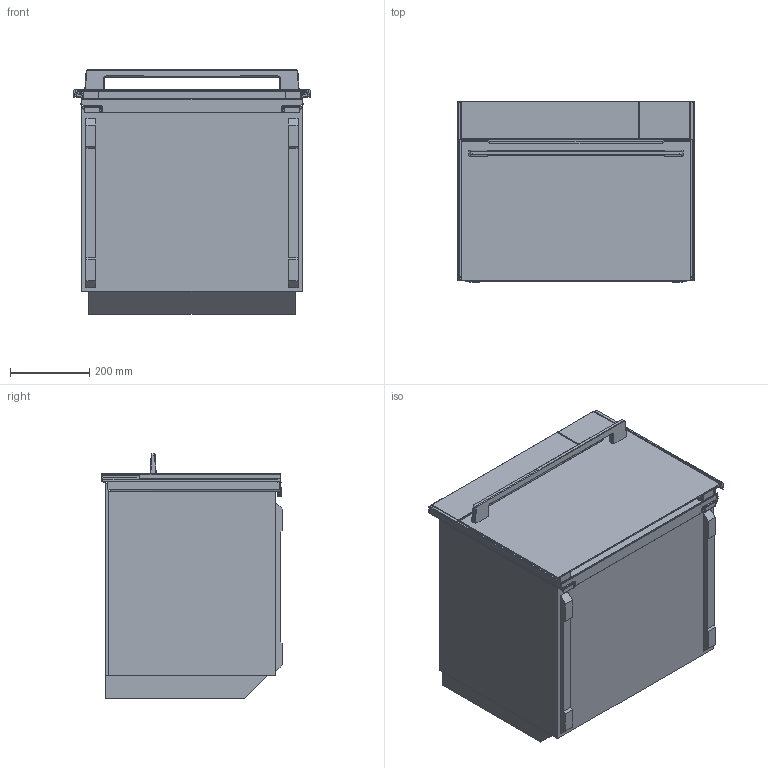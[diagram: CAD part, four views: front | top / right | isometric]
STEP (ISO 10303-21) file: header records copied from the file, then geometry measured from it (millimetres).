
FILE_DESCRIPTION (( 'STEP AP203' ), '1' );
FILE_NAME ('507874_OCS8478G.STEP', '2017-09-14T10:56:33', ( '' ), ( '' ), 'SwSTEP 2.0', 'SolidWorks 2016', '' );
FILE_SCHEMA (( 'CONFIG_CONTROL_DESIGN' ));
Length unit declared in the file: millimetre
Products named in the file (24): 001_MAGNA sklop-piro45.sldasm-Part-12; 001_MAGNA ASSEMBLY 45-STEAM.sldasm-Part-33; 002.sldasm-Part-388; 001_MAGNA sklop-piro45.sldasm-Part-26; 001_MAGNA ASSEMBLY 45-STEAM.sldasm-Part-37; OBOD; 001_MAGNA sklop-piro45.sldasm-Part-19; CONTROL MAGNA PANNEL 45 STEA; BIO 45 ST Dot matrix G.sldasm-Part-91-1; 001_MAGNA sklop-piro45.sldasm-Part-9-1; 001_MAGNA sklop-piro45.sldasm-Part-24; BIO 45 ST Dot matrix G.sldasm-Part-121-1; Mirror001_MAGNA sklop-piro45.sldasm-Part-19; 001_MAGNA sklop-piro45.sldasm-Part-23; OHISJE PECICE 45 ST; DOOR MAGNA PYRO 45; Mirror001_MAGNA sklop-piro45.sldasm-Part-24; PECICA 45 ST; OVEN 45 MAGNA STEAM; FRAME MAGNA PYRO 45; 001_MAGNA ASSEMBLY 45-STEAM.sldasm-Part-24; 507874_OCS8478G; 001_MAGNA ASSEMBLY 45-STEAM; 001_MAGNA ASSEMBLY 45-STEAM.sldasm-Part-30
Assembly tree (23 placements, depth 5):
  507874_OCS8478G
    OVEN 45 MAGNA STEAM
      OBOD
        002.sldasm-Part-388
      PECICA 45 ST
        OHISJE PECICE 45 ST
          BIO 45 ST Dot matrix G.sldasm-Part-91-1
          BIO 45 ST Dot matrix G.sldasm-Part-121-1
      001_MAGNA ASSEMBLY 45-STEAM
        CONTROL MAGNA PANNEL 45 STEA
          001_MAGNA ASSEMBLY 45-STEAM.sldasm-Part-24
          001_MAGNA ASSEMBLY 45-STEAM.sldasm-Part-30
          001_MAGNA ASSEMBLY 45-STEAM.sldasm-Part-33
          001_MAGNA ASSEMBLY 45-STEAM.sldasm-Part-37
        FRAME MAGNA PYRO 45
          001_MAGNA sklop-piro45.sldasm-Part-24
          001_MAGNA sklop-piro45.sldasm-Part-23
          Mirror001_MAGNA sklop-piro45.sldasm-Part-24
      DOOR MAGNA PYRO 45
        001_MAGNA sklop-piro45.sldasm-Part-12
        001_MAGNA sklop-piro45.sldasm-Part-26
        001_MAGNA sklop-piro45.sldasm-Part-19
        001_MAGNA sklop-piro45.sldasm-Part-9-1
        Mirror001_MAGNA sklop-piro45.sldasm-Part-19
Bounding box: 597 x 454.9 x 616.75 mm (x, y, z)
Volume: 125239677.3 mm3; surface area: 3077430.6 mm2
Topology: 15 solids, 17 shells, 590 faces, 1532 edges, 972 vertices
Faces by surface type: plane 280, cylinder 199, bspline 67, torus 36, sphere 8
Entity records: 22900 total; most frequent: CARTESIAN_POINT 6202, ORIENTED_EDGE 3052, DIRECTION 2874, EDGE_CURVE 1526, AXIS2_PLACEMENT_3D 974, VERTEX_POINT 972, LINE 926, VECTOR 926
